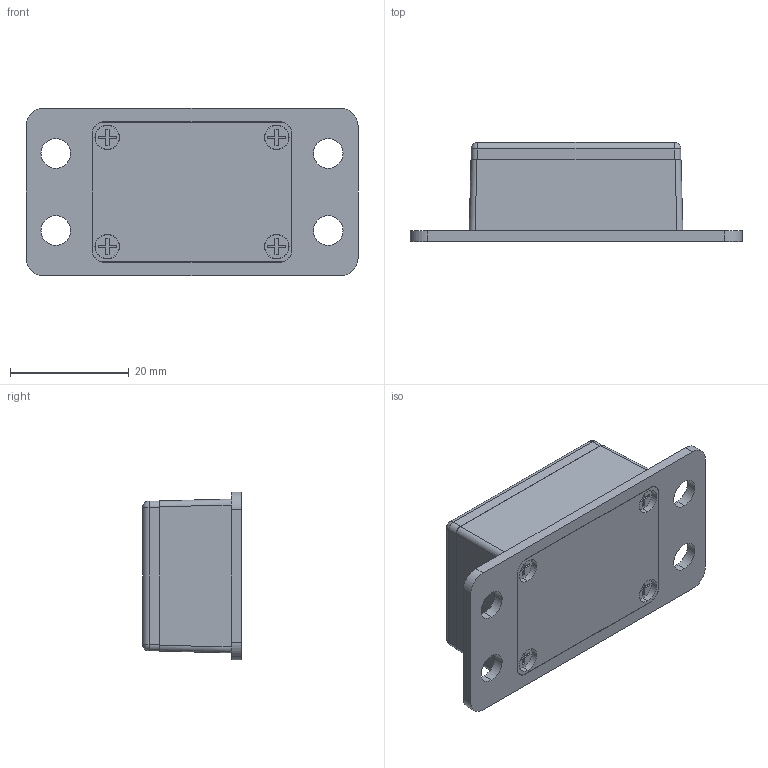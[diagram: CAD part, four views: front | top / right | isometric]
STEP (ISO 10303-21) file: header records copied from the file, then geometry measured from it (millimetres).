
FILE_DESCRIPTION (( 'STEP AP214' ), '1' );
FILE_NAME ('Conjunt PP94A.STEP', '2017-10-20T06:59:30', ( 'aaa' ), ( '' ), 'SwSTEP 2.0', 'SolidWorks 2013', '' );
FILE_SCHEMA (( 'AUTOMOTIVE_DESIGN' ));
Length unit declared in the file: millimetre
Products named in the file (4): Cargol 2,2x9,3 PP94A; Tapa PP94A; Cos PP94A; Conjunt PP94A
Assembly tree (6 placements, depth 2):
  Conjunt PP94A
    Cos PP94A
    Tapa PP94A
    Cargol 2,2x9,3 PP94A  x4
Bounding box: 55.93 x 16.65 x 28.24 mm (x, y, z)
Volume: 7607.3 mm3; surface area: 9567.5 mm2
Topology: 6 solids, 10 shells, 475 faces, 1054 edges, 604 vertices
Faces by surface type: cone 264, plane 121, cylinder 86, sphere 4
Entity records: 6638 total; most frequent: DIRECTION 1190, CARTESIAN_POINT 1161, ORIENTED_EDGE 1052, EDGE_CURVE 526, AXIS2_PLACEMENT_3D 450, VERTEX_POINT 325, LINE 290, VECTOR 290
